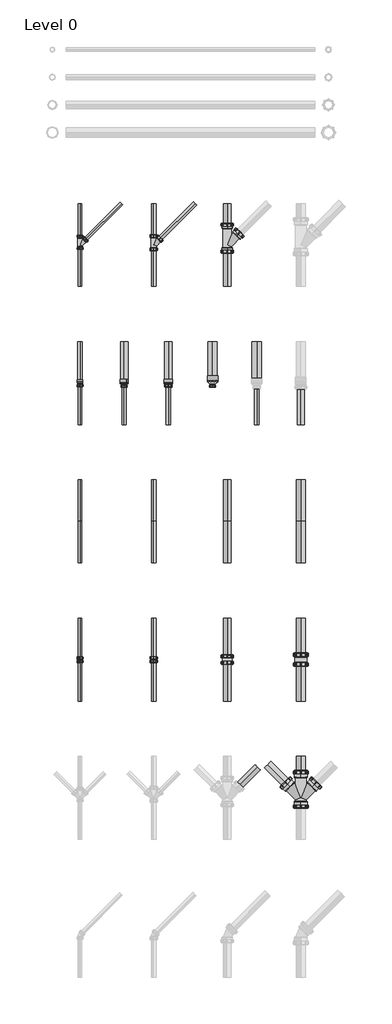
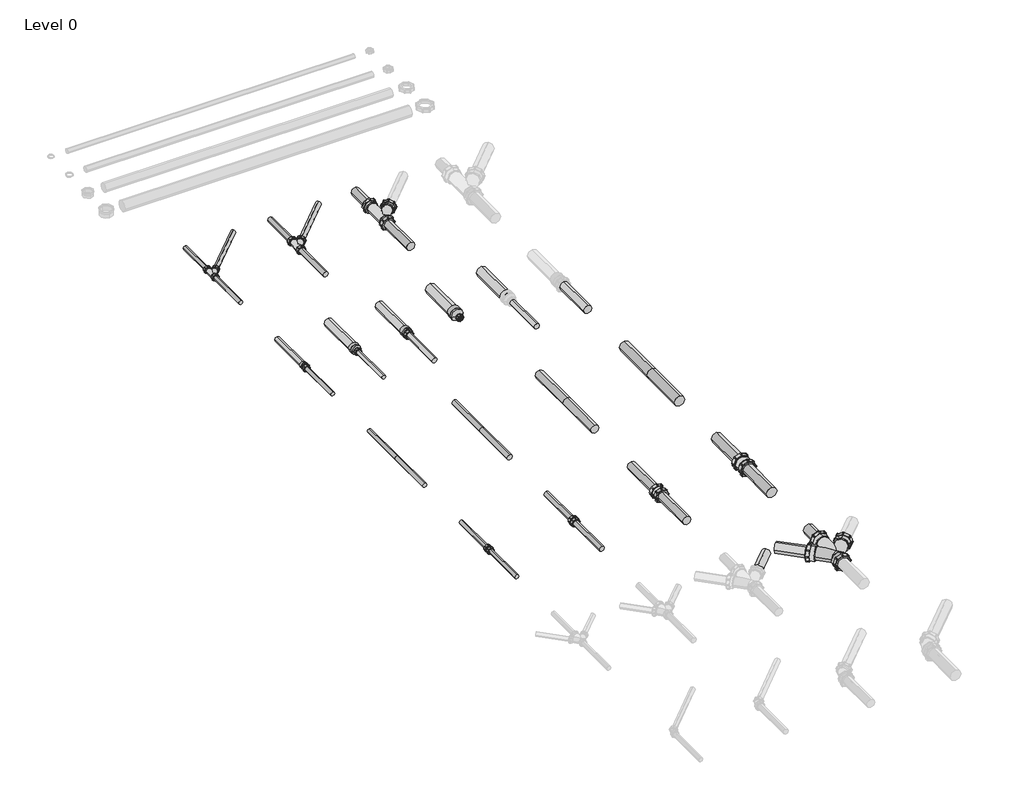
# One storey, part 2 of 5: 49 pipe fittings.
"""IFC4 building model written with IfcOpenShell, lengths in millimetres."""

from ifc_helpers import new_model, si_unit, point, frame, frame_2d, origin, place, context, project, spatial, circle_curve, trimmed, segment, composite_curve, outline, extrude, transform, mapped, element, save
from components import pipe_fitting_35e404ef, pipe_fitting_6c33db91, pipe_fitting_b207b394, pipe_fitting_26df508a, w161_1_5inch_38mm_ecee96b1, w162_2inch_51mm_dc409c0e, w163_3inch_76mm_f9ff3fc3, w164_4inch_102mm_ff1ab78e, w371_1_5inch_38mm_248ea1dd, w371_1_5inch_38mm_3170ab44, w372_2inch_51mm_546ab476, w372_2inch_51mm_12b9c9e0, w373_3inch_76mm_de6eb33f, w373_3inch_76mm_10aee05f, w384_4inch_102mm_da0a81fd, w384_4inch_102mm_0749fb11

model = new_model("IFC4")

# Units and contexts
model_context = context("Model", 3, world=origin())
ifc_project = project(units=[si_unit("LENGTHUNIT", "METRE", prefix="MILLI")], contexts=[model_context])

# Site, building, storey
site = spatial("IfcSite", under=ifc_project)
building = spatial("IfcBuilding", under=site)
storey = spatial("IfcBuildingStorey", under=building, Name="Level 0", Elevation=0.0)

# Pipe fittings
placement = place(None, origin())
element("IfcPipeFitting", 1, ObjectType="Vulcathene Mechanical Pipe", at=placement, inside=storey, context=model_context, shape_type="SweptSolid", body=[
    extrude(outline(composite_curve([segment(trimmed(circle_curve(frame_2d((0.0, -19657.9793828)), 20.0), [point((0.0, -19677.9793828))], [point((-20.0, -19657.9793828))], False, "CARTESIAN"), True, "CONTINUOUS"), segment(trimmed(circle_curve(frame_2d((0.0, -19657.9793828)), 20.0), [point((-20.0, -19657.9793828))], [point((0.0, -19637.9793828))], False, "CARTESIAN"), True, "CONTINUOUS"), segment(trimmed(circle_curve(frame_2d((0.0, -19657.9793828)), 20.0), [point((0.0, -19637.9793828))], [point((20.0, -19657.9793828))], False, "CARTESIAN"), True, "CONTINUOUS"), segment(trimmed(circle_curve(frame_2d((0.0, -19657.9793828)), 20.0), [point((20.0, -19657.9793828))], [point((0.0, -19677.9793828))], False, "CARTESIAN"), True, "CONTINUOUS")], self_intersect=False)), frame((0.0, 11214.6035033, 0.0), z_axis=(0.0, 1.0, 0.0), x_axis=(0.0, 0.0, 1.0)), (0.0, 0.0, 1.0), 421.9),
])
element("IfcPipeFitting", 2, ObjectType="Vulcathene Mechanical Pipe", at=placement, inside=storey, context=model_context, shape_type="SweptSolid", body=[
    extrude(outline(composite_curve([segment(trimmed(circle_curve(frame_2d((0.0, -18857.9793828)), 25.0), [point((0.0, -18882.9793828))], [point((-25.0, -18857.9793828))], False, "CARTESIAN"), True, "CONTINUOUS"), segment(trimmed(circle_curve(frame_2d((0.0, -18857.9793828)), 25.0), [point((-25.0, -18857.9793828))], [point((0.0, -18832.9793828))], False, "CARTESIAN"), True, "CONTINUOUS"), segment(trimmed(circle_curve(frame_2d((0.0, -18857.9793828)), 25.0), [point((0.0, -18832.9793828))], [point((25.0, -18857.9793828))], False, "CARTESIAN"), True, "CONTINUOUS"), segment(trimmed(circle_curve(frame_2d((0.0, -18857.9793828)), 25.0), [point((25.0, -18857.9793828))], [point((0.0, -18882.9793828))], False, "CARTESIAN"), True, "CONTINUOUS")], self_intersect=False)), frame((0.0, 11214.6035033, 0.0), z_axis=(0.0, 1.0, 0.0), x_axis=(0.0, 0.0, 1.0)), (0.0, 0.0, 1.0), 414.4),
])
element("IfcPipeFitting", 3, ObjectType="Vulcathene Mechanical Pipe", at=placement, inside=storey, context=model_context, shape_type="SweptSolid", body=[
    extrude(outline(composite_curve([segment(trimmed(circle_curve(frame_2d((0.0, -18057.9793828)), 40.0), [point((0.0, -18097.9793828))], [point((-40.0, -18057.9793828))], False, "CARTESIAN"), True, "CONTINUOUS"), segment(trimmed(circle_curve(frame_2d((0.0, -18057.9793828)), 40.0), [point((-40.0, -18057.9793828))], [point((0.0, -18017.9793828))], False, "CARTESIAN"), True, "CONTINUOUS"), segment(trimmed(circle_curve(frame_2d((0.0, -18057.9793828)), 40.0), [point((0.0, -18017.9793828))], [point((40.0, -18057.9793828))], False, "CARTESIAN"), True, "CONTINUOUS"), segment(trimmed(circle_curve(frame_2d((0.0, -18057.9793828)), 40.0), [point((40.0, -18057.9793828))], [point((0.0, -18097.9793828))], False, "CARTESIAN"), True, "CONTINUOUS")], self_intersect=False)), frame((0.0, 11214.6035033, 0.0), z_axis=(0.0, 1.0, 0.0), x_axis=(0.0, 0.0, 1.0)), (0.0, 0.0, 1.0), 393.0),
])
element("IfcPipeFitting", 4, ObjectType="Vulcathene Mechanical Pipe", at=placement, inside=storey, context=model_context, shape_type="SweptSolid", body=[
    extrude(outline(composite_curve([segment(trimmed(circle_curve(frame_2d((0.0, 20.0)), 20.0), [point((20.0, 20.0))], [point((0.0, 0.0))], False, "CARTESIAN"), True, "CONTINUOUS"), segment(trimmed(circle_curve(frame_2d((0.0, 20.0)), 20.0), [point((0.0, 0.0))], [point((-20.0, 20.0))], False, "CARTESIAN"), True, "CONTINUOUS"), segment(trimmed(circle_curve(frame_2d((0.0, 20.0)), 20.0), [point((-20.0, 20.0))], [point((0.0, 40.0))], False, "CARTESIAN"), True, "CONTINUOUS"), segment(trimmed(circle_curve(frame_2d((0.0, 20.0)), 20.0), [point((0.0, 40.0))], [point((20.0, 20.0))], False, "CARTESIAN"), True, "CONTINUOUS")], self_intersect=False)), frame((-19603.3200287, 11719.2628574, 20.0), z_axis=(0.7071067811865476, 0.7071067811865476, 0.0), x_axis=(0.7071067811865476, -0.7071067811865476, 0.0)), (0.0, 0.0, 1.0), 559.0961031),
])
element("IfcPipeFitting", 5, ObjectType="Vulcathene Mechanical Pipe", at=placement, inside=storey, context=model_context, shape_type="SweptSolid", body=[
    extrude(outline(composite_curve([segment(trimmed(circle_curve(frame_2d((0.0, -19657.9793828)), 20.0), [point((0.0, -19677.9793828))], [point((-20.0, -19657.9793828))], False, "CARTESIAN"), True, "CONTINUOUS"), segment(trimmed(circle_curve(frame_2d((0.0, -19657.9793828)), 20.0), [point((-20.0, -19657.9793828))], [point((0.0, -19637.9793828))], False, "CARTESIAN"), True, "CONTINUOUS"), segment(trimmed(circle_curve(frame_2d((0.0, -19657.9793828)), 20.0), [point((0.0, -19637.9793828))], [point((20.0, -19657.9793828))], False, "CARTESIAN"), True, "CONTINUOUS"), segment(trimmed(circle_curve(frame_2d((0.0, -19657.9793828)), 20.0), [point((20.0, -19657.9793828))], [point((0.0, -19677.9793828))], False, "CARTESIAN"), True, "CONTINUOUS")], self_intersect=False)), frame((0.0, 11747.7035033, 0.0), z_axis=(0.0, 1.0, 0.0), x_axis=(0.0, 0.0, 1.0)), (0.0, 0.0, 1.0), 366.9),
])
element("IfcPipeFitting", 6, ObjectType="Vulcathene Mechanical Pipe", at=placement, inside=storey, context=model_context, shape_type="SweptSolid", body=[
    extrude(outline(composite_curve([segment(trimmed(circle_curve(frame_2d((0.0, 25.0)), 25.0), [point((25.0, 25.0))], [point((0.0, 0.0))], False, "CARTESIAN"), True, "CONTINUOUS"), segment(trimmed(circle_curve(frame_2d((0.0, 25.0)), 25.0), [point((0.0, 0.0))], [point((-25.0, 25.0))], False, "CARTESIAN"), True, "CONTINUOUS"), segment(trimmed(circle_curve(frame_2d((0.0, 25.0)), 25.0), [point((-25.0, 25.0))], [point((0.0, 50.0))], False, "CARTESIAN"), True, "CONTINUOUS"), segment(trimmed(circle_curve(frame_2d((0.0, 25.0)), 25.0), [point((0.0, 50.0))], [point((25.0, 25.0))], False, "CARTESIAN"), True, "CONTINUOUS")], self_intersect=False)), frame((-18798.4409919, 11724.1418942, 25.0), z_axis=(0.7071067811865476, 0.7071067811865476, 0.0), x_axis=(0.7071067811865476, -0.7071067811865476, 0.0)), (0.0, 0.0, 1.0), 552.1961031),
])
element("IfcPipeFitting", 7, ObjectType="Vulcathene Mechanical Pipe", at=placement, inside=storey, context=model_context, shape_type="SweptSolid", body=[
    extrude(outline(composite_curve([segment(trimmed(circle_curve(frame_2d((0.0, -18857.9793828)), 25.0), [point((0.0, -18882.9793828))], [point((-25.0, -18857.9793828))], False, "CARTESIAN"), True, "CONTINUOUS"), segment(trimmed(circle_curve(frame_2d((0.0, -18857.9793828)), 25.0), [point((-25.0, -18857.9793828))], [point((0.0, -18832.9793828))], False, "CARTESIAN"), True, "CONTINUOUS"), segment(trimmed(circle_curve(frame_2d((0.0, -18857.9793828)), 25.0), [point((0.0, -18832.9793828))], [point((25.0, -18857.9793828))], False, "CARTESIAN"), True, "CONTINUOUS"), segment(trimmed(circle_curve(frame_2d((0.0, -18857.9793828)), 25.0), [point((25.0, -18857.9793828))], [point((0.0, -18882.9793828))], False, "CARTESIAN"), True, "CONTINUOUS")], self_intersect=False)), frame((0.0, 11748.2035033, 0.0), z_axis=(0.0, 1.0, 0.0), x_axis=(0.0, 0.0, 1.0)), (0.0, 0.0, 1.0), 366.4),
])
element("IfcPipeFitting", 8, ObjectType="Vulcathene Mechanical Pipe", at=placement, inside=storey, context=model_context, shape_type="SweptSolid", body=[
    extrude(outline(composite_curve([segment(trimmed(circle_curve(frame_2d((0.0, -18057.9793828)), 40.0), [point((0.0, -18097.9793828))], [point((-40.0, -18057.9793828))], False, "CARTESIAN"), True, "CONTINUOUS"), segment(trimmed(circle_curve(frame_2d((0.0, -18057.9793828)), 40.0), [point((-40.0, -18057.9793828))], [point((0.0, -18017.9793828))], False, "CARTESIAN"), True, "CONTINUOUS"), segment(trimmed(circle_curve(frame_2d((0.0, -18057.9793828)), 40.0), [point((0.0, -18017.9793828))], [point((40.0, -18057.9793828))], False, "CARTESIAN"), True, "CONTINUOUS"), segment(trimmed(circle_curve(frame_2d((0.0, -18057.9793828)), 40.0), [point((40.0, -18057.9793828))], [point((0.0, -18097.9793828))], False, "CARTESIAN"), True, "CONTINUOUS")], self_intersect=False)), frame((0.0, 11869.5035033, 0.0), z_axis=(0.0, 1.0, 0.0), x_axis=(0.0, 0.0, 1.0)), (0.0, 0.0, 1.0), 245.1),
])
element("IfcPipeFitting", 9, ObjectType="Vulcathene Mechanical Pipe", at=placement, inside=storey, context=model_context, shape_type="SweptSolid", body=[
    extrude(outline(composite_curve([segment(trimmed(circle_curve(frame_2d((0.0, -19657.9793828)), 20.0), [point((0.0, -19677.9793828))], [point((-20.0, -19657.9793828))], False, "CARTESIAN"), True, "CONTINUOUS"), segment(trimmed(circle_curve(frame_2d((0.0, -19657.9793828)), 20.0), [point((-20.0, -19657.9793828))], [point((0.0, -19637.9793828))], False, "CARTESIAN"), True, "CONTINUOUS"), segment(trimmed(circle_curve(frame_2d((0.0, -19657.9793828)), 20.0), [point((0.0, -19637.9793828))], [point((20.0, -19657.9793828))], False, "CARTESIAN"), True, "CONTINUOUS"), segment(trimmed(circle_curve(frame_2d((0.0, -19657.9793828)), 20.0), [point((20.0, -19657.9793828))], [point((0.0, -19677.9793828))], False, "CARTESIAN"), True, "CONTINUOUS")], self_intersect=False)), frame((0.0, 9714.6035033, 0.0), z_axis=(0.0, 1.0, 0.0), x_axis=(0.0, 0.0, 1.0)), (0.0, 0.0, 1.0), 442.9),
])
element("IfcPipeFitting", 10, ObjectType="Vulcathene Mechanical Pipe", at=placement, inside=storey, context=model_context, shape_type="SweptSolid", body=[
    extrude(outline(composite_curve([segment(trimmed(circle_curve(frame_2d((0.0, -19657.9793828)), 25.0), [point((0.0, -19632.9793828))], [point((25.0, -19657.9793828))], False, "CARTESIAN"), True, "CONTINUOUS"), segment(trimmed(circle_curve(frame_2d((0.0, -19657.9793828)), 25.0), [point((25.0, -19657.9793828))], [point((0.0, -19682.9793828))], False, "CARTESIAN"), True, "CONTINUOUS"), segment(trimmed(circle_curve(frame_2d((0.0, -19657.9793828)), 25.0), [point((0.0, -19682.9793828))], [point((-25.0, -19657.9793828))], False, "CARTESIAN"), True, "CONTINUOUS"), segment(trimmed(circle_curve(frame_2d((0.0, -19657.9793828)), 25.0), [point((-25.0, -19657.9793828))], [point((0.0, -19632.9793828))], False, "CARTESIAN"), True, "CONTINUOUS")], self_intersect=False)), frame((0.0, 10174.7035033, 0.0), z_axis=(0.0, 1.0, 0.0), x_axis=(0.0, 0.0, 1.0)), (0.0, 0.0, 1.0), 439.9),
])
element("IfcPipeFitting", 11, ObjectType="Vulcathene Mechanical Pipe", at=placement, inside=storey, context=model_context, shape_type="SweptSolid", body=[
    extrude(outline(composite_curve([segment(trimmed(circle_curve(frame_2d((0.0, -19177.9793828)), 20.0), [point((0.0, -19157.9793828))], [point((20.0, -19177.9793828))], False, "CARTESIAN"), True, "CONTINUOUS"), segment(trimmed(circle_curve(frame_2d((0.0, -19177.9793828)), 20.0), [point((20.0, -19177.9793828))], [point((0.0, -19197.9793828))], False, "CARTESIAN"), True, "CONTINUOUS"), segment(trimmed(circle_curve(frame_2d((0.0, -19177.9793828)), 20.0), [point((0.0, -19197.9793828))], [point((-20.0, -19177.9793828))], False, "CARTESIAN"), True, "CONTINUOUS"), segment(trimmed(circle_curve(frame_2d((0.0, -19177.9793828)), 20.0), [point((-20.0, -19177.9793828))], [point((0.0, -19157.9793828))], False, "CARTESIAN"), True, "CONTINUOUS")], self_intersect=False)), frame((0.0, 9714.6035033, 0.0), z_axis=(0.0, 1.0, 0.0), x_axis=(0.0, 0.0, 1.0)), (0.0, 0.0, 1.0), 435.15),
])
element("IfcPipeFitting", 12, ObjectType="Vulcathene Mechanical Pipe", at=placement, inside=storey, context=model_context, shape_type="SweptSolid", body=[
    extrude(outline(composite_curve([segment(trimmed(circle_curve(frame_2d((0.0, -19177.9793828)), 40.0), [point((0.0, -19137.9793828))], [point((40.0, -19177.9793828))], False, "CARTESIAN"), True, "CONTINUOUS"), segment(trimmed(circle_curve(frame_2d((0.0, -19177.9793828)), 40.0), [point((40.0, -19177.9793828))], [point((0.0, -19217.9793828))], False, "CARTESIAN"), True, "CONTINUOUS"), segment(trimmed(circle_curve(frame_2d((0.0, -19177.9793828)), 40.0), [point((0.0, -19217.9793828))], [point((-40.0, -19177.9793828))], False, "CARTESIAN"), True, "CONTINUOUS"), segment(trimmed(circle_curve(frame_2d((0.0, -19177.9793828)), 40.0), [point((-40.0, -19177.9793828))], [point((0.0, -19137.9793828))], False, "CARTESIAN"), True, "CONTINUOUS")], self_intersect=False)), frame((0.0, 10161.4535033, 0.0), z_axis=(0.0, 1.0, 0.0), x_axis=(0.0, 0.0, 1.0)), (0.0, 0.0, 1.0), 453.15),
])
element("IfcPipeFitting", 13, ObjectType="Vulcathene Mechanical Pipe", at=placement, inside=storey, context=model_context, shape_type="SweptSolid", body=[
    extrude(outline(composite_curve([segment(trimmed(circle_curve(frame_2d((0.0, -18697.9793828)), 25.0), [point((0.0, -18672.9793828))], [point((25.0, -18697.9793828))], False, "CARTESIAN"), True, "CONTINUOUS"), segment(trimmed(circle_curve(frame_2d((0.0, -18697.9793828)), 25.0), [point((25.0, -18697.9793828))], [point((0.0, -18722.9793828))], False, "CARTESIAN"), True, "CONTINUOUS"), segment(trimmed(circle_curve(frame_2d((0.0, -18697.9793828)), 25.0), [point((0.0, -18722.9793828))], [point((-25.0, -18697.9793828))], False, "CARTESIAN"), True, "CONTINUOUS"), segment(trimmed(circle_curve(frame_2d((0.0, -18697.9793828)), 25.0), [point((-25.0, -18697.9793828))], [point((0.0, -18672.9793828))], False, "CARTESIAN"), True, "CONTINUOUS")], self_intersect=False)), frame((0.0, 9714.6035033, 0.0), z_axis=(0.0, 1.0, 0.0), x_axis=(0.0, 0.0, 1.0)), (0.0, 0.0, 1.0), 438.25),
])
element("IfcPipeFitting", 14, ObjectType="Vulcathene Mechanical Pipe", at=placement, inside=storey, context=model_context, shape_type="SweptSolid", body=[
    extrude(outline(composite_curve([segment(trimmed(circle_curve(frame_2d((0.0, -18697.9793828)), 40.0), [point((0.0, -18657.9793828))], [point((40.0, -18697.9793828))], False, "CARTESIAN"), True, "CONTINUOUS"), segment(trimmed(circle_curve(frame_2d((0.0, -18697.9793828)), 40.0), [point((40.0, -18697.9793828))], [point((0.0, -18737.9793828))], False, "CARTESIAN"), True, "CONTINUOUS"), segment(trimmed(circle_curve(frame_2d((0.0, -18697.9793828)), 40.0), [point((0.0, -18737.9793828))], [point((-40.0, -18697.9793828))], False, "CARTESIAN"), True, "CONTINUOUS"), segment(trimmed(circle_curve(frame_2d((0.0, -18697.9793828)), 40.0), [point((-40.0, -18697.9793828))], [point((0.0, -18657.9793828))], False, "CARTESIAN"), True, "CONTINUOUS")], self_intersect=False)), frame((0.0, 10160.3535033, 0.0), z_axis=(0.0, 1.0, 0.0), x_axis=(0.0, 0.0, 1.0)), (0.0, 0.0, 1.0), 454.25),
])
element("IfcPipeFitting", 15, ObjectType="Vulcathene Mechanical Pipe", at=placement, inside=storey, context=model_context, shape_type="SweptSolid", body=[
    extrude(outline(composite_curve([segment(trimmed(circle_curve(frame_2d((0.0, -17737.9793828)), 25.0), [point((0.0, -17712.9793828))], [point((25.0, -17737.9793828))], False, "CARTESIAN"), True, "CONTINUOUS"), segment(trimmed(circle_curve(frame_2d((0.0, -17737.9793828)), 25.0), [point((25.0, -17737.9793828))], [point((0.0, -17762.9793828))], False, "CARTESIAN"), True, "CONTINUOUS"), segment(trimmed(circle_curve(frame_2d((0.0, -17737.9793828)), 25.0), [point((0.0, -17762.9793828))], [point((-25.0, -17737.9793828))], False, "CARTESIAN"), True, "CONTINUOUS"), segment(trimmed(circle_curve(frame_2d((0.0, -17737.9793828)), 25.0), [point((-25.0, -17737.9793828))], [point((0.0, -17712.9793828))], False, "CARTESIAN"), True, "CONTINUOUS")], self_intersect=False)), frame((0.0, 9714.6035033, 0.0), z_axis=(0.0, 1.0, 0.0), x_axis=(0.0, 0.0, 1.0)), (0.0, 0.0, 1.0), 419.25),
])
element("IfcPipeFitting", 16, ObjectType="Vulcathene Mechanical Pipe", at=placement, inside=storey, context=model_context, shape_type="SweptSolid", body=[
    extrude(outline(composite_curve([segment(trimmed(circle_curve(frame_2d((0.0, -17737.9793828)), 50.0), [point((0.0, -17687.9793828))], [point((50.0, -17737.9793828))], False, "CARTESIAN"), True, "CONTINUOUS"), segment(trimmed(circle_curve(frame_2d((0.0, -17737.9793828)), 50.0), [point((50.0, -17737.9793828))], [point((0.0, -17787.9793828))], False, "CARTESIAN"), True, "CONTINUOUS"), segment(trimmed(circle_curve(frame_2d((0.0, -17737.9793828)), 50.0), [point((0.0, -17787.9793828))], [point((-50.0, -17737.9793828))], False, "CARTESIAN"), True, "CONTINUOUS"), segment(trimmed(circle_curve(frame_2d((0.0, -17737.9793828)), 50.0), [point((-50.0, -17737.9793828))], [point((0.0, -17687.9793828))], False, "CARTESIAN"), True, "CONTINUOUS")], self_intersect=False)), frame((0.0, 10163.3535033, 0.0), z_axis=(0.0, 1.0, 0.0), x_axis=(0.0, 0.0, 1.0)), (0.0, 0.0, 1.0), 451.25),
])
element("IfcPipeFitting", 17, ObjectType="Vulcathene Mechanical Pipe", at=placement, inside=storey, context=model_context, shape_type="SweptSolid", body=[
    extrude(outline(composite_curve([segment(trimmed(circle_curve(frame_2d((0.0, -17257.9793828)), 40.0), [point((0.0, -17217.9793828))], [point((40.0, -17257.9793828))], False, "CARTESIAN"), True, "CONTINUOUS"), segment(trimmed(circle_curve(frame_2d((0.0, -17257.9793828)), 40.0), [point((40.0, -17257.9793828))], [point((0.0, -17297.9793828))], False, "CARTESIAN"), True, "CONTINUOUS"), segment(trimmed(circle_curve(frame_2d((0.0, -17257.9793828)), 40.0), [point((0.0, -17297.9793828))], [point((-40.0, -17257.9793828))], False, "CARTESIAN"), True, "CONTINUOUS"), segment(trimmed(circle_curve(frame_2d((0.0, -17257.9793828)), 40.0), [point((-40.0, -17257.9793828))], [point((0.0, -17217.9793828))], False, "CARTESIAN"), True, "CONTINUOUS")], self_intersect=False)), frame((0.0, 9714.6035033, 0.0), z_axis=(0.0, 1.0, 0.0), x_axis=(0.0, 0.0, 1.0)), (0.0, 0.0, 1.0), 437.15),
])
element("IfcPipeFitting", 18, ObjectType="Vulcathene Mechanical Pipe", at=placement, inside=storey, context=model_context, shape_type="SweptSolid", body=[
    extrude(outline(composite_curve([segment(trimmed(circle_curve(frame_2d((0.0, -18217.9793828)), 50.0), [point((0.0, -18167.9793828))], [point((50.0, -18217.9793828))], False, "CARTESIAN"), True, "CONTINUOUS"), segment(trimmed(circle_curve(frame_2d((0.0, -18217.9793828)), 50.0), [point((50.0, -18217.9793828))], [point((0.0, -18267.9793828))], False, "CARTESIAN"), True, "CONTINUOUS"), segment(trimmed(circle_curve(frame_2d((0.0, -18217.9793828)), 50.0), [point((0.0, -18267.9793828))], [point((-50.0, -18217.9793828))], False, "CARTESIAN"), True, "CONTINUOUS"), segment(trimmed(circle_curve(frame_2d((0.0, -18217.9793828)), 50.0), [point((-50.0, -18217.9793828))], [point((0.0, -18167.9793828))], False, "CARTESIAN"), True, "CONTINUOUS")], self_intersect=False)), frame((0.0, 10181.8535033, 0.0), z_axis=(0.0, 1.0, 0.0), x_axis=(0.0, 0.0, 1.0)), (0.0, 0.0, 1.0), 432.75),
])
element("IfcPipeFitting", 19, ObjectType="Vulcathene Mechanical Pipe", at=placement, inside=storey, context=model_context, shape_type="SweptSolid", body=[
    extrude(outline(composite_curve([segment(trimmed(circle_curve(frame_2d((0.0, -19657.9793828)), 20.0), [point((0.0, -19677.9793828))], [point((-20.0, -19657.9793828))], False, "CARTESIAN"), True, "CONTINUOUS"), segment(trimmed(circle_curve(frame_2d((0.0, -19657.9793828)), 20.0), [point((-20.0, -19657.9793828))], [point((0.0, -19637.9793828))], False, "CARTESIAN"), True, "CONTINUOUS"), segment(trimmed(circle_curve(frame_2d((0.0, -19657.9793828)), 20.0), [point((0.0, -19637.9793828))], [point((20.0, -19657.9793828))], False, "CARTESIAN"), True, "CONTINUOUS"), segment(trimmed(circle_curve(frame_2d((0.0, -19657.9793828)), 20.0), [point((20.0, -19657.9793828))], [point((0.0, -19677.9793828))], False, "CARTESIAN"), True, "CONTINUOUS")], self_intersect=False)), frame((0.0, 8214.6035033, 0.0), z_axis=(0.0, 1.0, 0.0), x_axis=(0.0, 0.0, 1.0)), (0.0, 0.0, 1.0), 450.0),
])
element("IfcPipeFitting", 20, ObjectType="Vulcathene Mechanical Pipe", at=placement, inside=storey, context=model_context, shape_type="SweptSolid", body=[
    extrude(outline(composite_curve([segment(trimmed(circle_curve(frame_2d((0.0, -18857.9793828)), 25.0), [point((0.0, -18882.9793828))], [point((-25.0, -18857.9793828))], False, "CARTESIAN"), True, "CONTINUOUS"), segment(trimmed(circle_curve(frame_2d((0.0, -18857.9793828)), 25.0), [point((-25.0, -18857.9793828))], [point((0.0, -18832.9793828))], False, "CARTESIAN"), True, "CONTINUOUS"), segment(trimmed(circle_curve(frame_2d((0.0, -18857.9793828)), 25.0), [point((0.0, -18832.9793828))], [point((25.0, -18857.9793828))], False, "CARTESIAN"), True, "CONTINUOUS"), segment(trimmed(circle_curve(frame_2d((0.0, -18857.9793828)), 25.0), [point((25.0, -18857.9793828))], [point((0.0, -18882.9793828))], False, "CARTESIAN"), True, "CONTINUOUS")], self_intersect=False)), frame((0.0, 8214.6035033, 0.0), z_axis=(0.0, 1.0, 0.0), x_axis=(0.0, 0.0, 1.0)), (0.0, 0.0, 1.0), 450.0),
])
element("IfcPipeFitting", 21, ObjectType="Vulcathene Mechanical Pipe", at=placement, inside=storey, context=model_context, shape_type="SweptSolid", body=[
    extrude(outline(composite_curve([segment(trimmed(circle_curve(frame_2d((0.0, -18057.9793828)), 40.0), [point((0.0, -18097.9793828))], [point((-40.0, -18057.9793828))], False, "CARTESIAN"), True, "CONTINUOUS"), segment(trimmed(circle_curve(frame_2d((0.0, -18057.9793828)), 40.0), [point((-40.0, -18057.9793828))], [point((0.0, -18017.9793828))], False, "CARTESIAN"), True, "CONTINUOUS"), segment(trimmed(circle_curve(frame_2d((0.0, -18057.9793828)), 40.0), [point((0.0, -18017.9793828))], [point((40.0, -18057.9793828))], False, "CARTESIAN"), True, "CONTINUOUS"), segment(trimmed(circle_curve(frame_2d((0.0, -18057.9793828)), 40.0), [point((40.0, -18057.9793828))], [point((0.0, -18097.9793828))], False, "CARTESIAN"), True, "CONTINUOUS")], self_intersect=False)), frame((0.0, 8214.6035033, 0.0), z_axis=(0.0, 1.0, 0.0), x_axis=(0.0, 0.0, 1.0)), (0.0, 0.0, 1.0), 450.0),
])
element("IfcPipeFitting", 22, ObjectType="Vulcathene Mechanical Pipe", at=placement, inside=storey, context=model_context, shape_type="SweptSolid", body=[
    extrude(outline(composite_curve([segment(trimmed(circle_curve(frame_2d((0.0, -17257.9793828)), 50.0), [point((0.0, -17307.9793828))], [point((-50.0, -17257.9793828))], False, "CARTESIAN"), True, "CONTINUOUS"), segment(trimmed(circle_curve(frame_2d((0.0, -17257.9793828)), 50.0), [point((-50.0, -17257.9793828))], [point((0.0, -17207.9793828))], False, "CARTESIAN"), True, "CONTINUOUS"), segment(trimmed(circle_curve(frame_2d((0.0, -17257.9793828)), 50.0), [point((0.0, -17207.9793828))], [point((50.0, -17257.9793828))], False, "CARTESIAN"), True, "CONTINUOUS"), segment(trimmed(circle_curve(frame_2d((0.0, -17257.9793828)), 50.0), [point((50.0, -17257.9793828))], [point((0.0, -17307.9793828))], False, "CARTESIAN"), True, "CONTINUOUS")], self_intersect=False)), frame((0.0, 8214.6035033, 0.0), z_axis=(0.0, 1.0, 0.0), x_axis=(0.0, 0.0, 1.0)), (0.0, 0.0, 1.0), 450.0),
])
element("IfcPipeFitting", 23, ObjectType="Vulcathene Mechanical Pipe", at=placement, inside=storey, context=model_context, shape_type="SweptSolid", body=[
    extrude(outline(composite_curve([segment(trimmed(circle_curve(frame_2d((0.0, -19657.9793828)), 20.0), [point((0.0, -19677.9793828))], [point((-20.0, -19657.9793828))], False, "CARTESIAN"), True, "CONTINUOUS"), segment(trimmed(circle_curve(frame_2d((0.0, -19657.9793828)), 20.0), [point((-20.0, -19657.9793828))], [point((0.0, -19637.9793828))], False, "CARTESIAN"), True, "CONTINUOUS"), segment(trimmed(circle_curve(frame_2d((0.0, -19657.9793828)), 20.0), [point((0.0, -19637.9793828))], [point((20.0, -19657.9793828))], False, "CARTESIAN"), True, "CONTINUOUS"), segment(trimmed(circle_curve(frame_2d((0.0, -19657.9793828)), 20.0), [point((20.0, -19657.9793828))], [point((0.0, -19677.9793828))], False, "CARTESIAN"), True, "CONTINUOUS")], self_intersect=False)), frame((0.0, 8664.6035033, 0.0), z_axis=(0.0, 1.0, 0.0), x_axis=(0.0, 0.0, 1.0)), (0.0, 0.0, 1.0), 450.0),
])
element("IfcPipeFitting", 24, ObjectType="Vulcathene Mechanical Pipe", at=placement, inside=storey, context=model_context, shape_type="SweptSolid", body=[
    extrude(outline(composite_curve([segment(trimmed(circle_curve(frame_2d((0.0, -18857.9793828)), 25.0), [point((0.0, -18882.9793828))], [point((-25.0, -18857.9793828))], False, "CARTESIAN"), True, "CONTINUOUS"), segment(trimmed(circle_curve(frame_2d((0.0, -18857.9793828)), 25.0), [point((-25.0, -18857.9793828))], [point((0.0, -18832.9793828))], False, "CARTESIAN"), True, "CONTINUOUS"), segment(trimmed(circle_curve(frame_2d((0.0, -18857.9793828)), 25.0), [point((0.0, -18832.9793828))], [point((25.0, -18857.9793828))], False, "CARTESIAN"), True, "CONTINUOUS"), segment(trimmed(circle_curve(frame_2d((0.0, -18857.9793828)), 25.0), [point((25.0, -18857.9793828))], [point((0.0, -18882.9793828))], False, "CARTESIAN"), True, "CONTINUOUS")], self_intersect=False)), frame((0.0, 8664.6035033, 0.0), z_axis=(0.0, 1.0, 0.0), x_axis=(0.0, 0.0, 1.0)), (0.0, 0.0, 1.0), 450.0),
])
element("IfcPipeFitting", 25, ObjectType="Vulcathene Mechanical Pipe", at=placement, inside=storey, context=model_context, shape_type="SweptSolid", body=[
    extrude(outline(composite_curve([segment(trimmed(circle_curve(frame_2d((0.0, -18057.9793828)), 40.0), [point((0.0, -18097.9793828))], [point((-40.0, -18057.9793828))], False, "CARTESIAN"), True, "CONTINUOUS"), segment(trimmed(circle_curve(frame_2d((0.0, -18057.9793828)), 40.0), [point((-40.0, -18057.9793828))], [point((0.0, -18017.9793828))], False, "CARTESIAN"), True, "CONTINUOUS"), segment(trimmed(circle_curve(frame_2d((0.0, -18057.9793828)), 40.0), [point((0.0, -18017.9793828))], [point((40.0, -18057.9793828))], False, "CARTESIAN"), True, "CONTINUOUS"), segment(trimmed(circle_curve(frame_2d((0.0, -18057.9793828)), 40.0), [point((40.0, -18057.9793828))], [point((0.0, -18097.9793828))], False, "CARTESIAN"), True, "CONTINUOUS")], self_intersect=False)), frame((0.0, 8664.6035033, 0.0), z_axis=(0.0, 1.0, 0.0), x_axis=(0.0, 0.0, 1.0)), (0.0, 0.0, 1.0), 450.0),
])
element("IfcPipeFitting", 26, ObjectType="Vulcathene Mechanical Pipe", at=placement, inside=storey, context=model_context, shape_type="SweptSolid", body=[
    extrude(outline(composite_curve([segment(trimmed(circle_curve(frame_2d((0.0, -17257.9793828)), 50.0), [point((0.0, -17307.9793828))], [point((-50.0, -17257.9793828))], False, "CARTESIAN"), True, "CONTINUOUS"), segment(trimmed(circle_curve(frame_2d((0.0, -17257.9793828)), 50.0), [point((-50.0, -17257.9793828))], [point((0.0, -17207.9793828))], False, "CARTESIAN"), True, "CONTINUOUS"), segment(trimmed(circle_curve(frame_2d((0.0, -17257.9793828)), 50.0), [point((0.0, -17207.9793828))], [point((50.0, -17257.9793828))], False, "CARTESIAN"), True, "CONTINUOUS"), segment(trimmed(circle_curve(frame_2d((0.0, -17257.9793828)), 50.0), [point((50.0, -17257.9793828))], [point((0.0, -17307.9793828))], False, "CARTESIAN"), True, "CONTINUOUS")], self_intersect=False)), frame((0.0, 8664.6035033, 0.0), z_axis=(0.0, 1.0, 0.0), x_axis=(0.0, 0.0, 1.0)), (0.0, 0.0, 1.0), 450.0),
])
element("IfcPipeFitting", 27, ObjectType="Vulcathene Mechanical Pipe", at=placement, inside=storey, context=model_context, shape_type="SweptSolid", body=[
    extrude(outline(composite_curve([segment(trimmed(circle_curve(frame_2d((0.0, -19657.9793828)), 20.0), [point((0.0, -19677.9793828))], [point((-20.0, -19657.9793828))], False, "CARTESIAN"), True, "CONTINUOUS"), segment(trimmed(circle_curve(frame_2d((0.0, -19657.9793828)), 20.0), [point((-20.0, -19657.9793828))], [point((0.0, -19637.9793828))], False, "CARTESIAN"), True, "CONTINUOUS"), segment(trimmed(circle_curve(frame_2d((0.0, -19657.9793828)), 20.0), [point((0.0, -19637.9793828))], [point((20.0, -19657.9793828))], False, "CARTESIAN"), True, "CONTINUOUS"), segment(trimmed(circle_curve(frame_2d((0.0, -19657.9793828)), 20.0), [point((20.0, -19657.9793828))], [point((0.0, -19677.9793828))], False, "CARTESIAN"), True, "CONTINUOUS")], self_intersect=False)), frame((0.0, 6714.6035033, 0.0), z_axis=(0.0, 1.0, 0.0), x_axis=(0.0, 0.0, 1.0)), (0.0, 0.0, 1.0), 439.1),
])
element("IfcPipeFitting", 28, ObjectType="Vulcathene Mechanical Pipe", at=placement, inside=storey, context=model_context, shape_type="SweptSolid", body=[
    extrude(outline(composite_curve([segment(trimmed(circle_curve(frame_2d((0.0, -18857.9793828)), 25.0), [point((0.0, -18882.9793828))], [point((-25.0, -18857.9793828))], False, "CARTESIAN"), True, "CONTINUOUS"), segment(trimmed(circle_curve(frame_2d((0.0, -18857.9793828)), 25.0), [point((-25.0, -18857.9793828))], [point((0.0, -18832.9793828))], False, "CARTESIAN"), True, "CONTINUOUS"), segment(trimmed(circle_curve(frame_2d((0.0, -18857.9793828)), 25.0), [point((0.0, -18832.9793828))], [point((25.0, -18857.9793828))], False, "CARTESIAN"), True, "CONTINUOUS"), segment(trimmed(circle_curve(frame_2d((0.0, -18857.9793828)), 25.0), [point((25.0, -18857.9793828))], [point((0.0, -18882.9793828))], False, "CARTESIAN"), True, "CONTINUOUS")], self_intersect=False)), frame((0.0, 6714.6035033, 0.0), z_axis=(0.0, 1.0, 0.0), x_axis=(0.0, 0.0, 1.0)), (0.0, 0.0, 1.0), 443.5),
])
element("IfcPipeFitting", 29, ObjectType="Vulcathene Mechanical Pipe", at=placement, inside=storey, context=model_context, shape_type="SweptSolid", body=[
    extrude(outline(composite_curve([segment(trimmed(circle_curve(frame_2d((0.0, -18057.9793828)), 40.0), [point((0.0, -18097.9793828))], [point((-40.0, -18057.9793828))], False, "CARTESIAN"), True, "CONTINUOUS"), segment(trimmed(circle_curve(frame_2d((0.0, -18057.9793828)), 40.0), [point((-40.0, -18057.9793828))], [point((0.0, -18017.9793828))], False, "CARTESIAN"), True, "CONTINUOUS"), segment(trimmed(circle_curve(frame_2d((0.0, -18057.9793828)), 40.0), [point((0.0, -18017.9793828))], [point((40.0, -18057.9793828))], False, "CARTESIAN"), True, "CONTINUOUS"), segment(trimmed(circle_curve(frame_2d((0.0, -18057.9793828)), 40.0), [point((40.0, -18057.9793828))], [point((0.0, -18097.9793828))], False, "CARTESIAN"), True, "CONTINUOUS")], self_intersect=False)), frame((0.0, 6714.6035033, 0.0), z_axis=(0.0, 1.0, 0.0), x_axis=(0.0, 0.0, 1.0)), (0.0, 0.0, 1.0), 429.6),
])
element("IfcPipeFitting", 30, ObjectType="Vulcathene Mechanical Pipe", at=placement, inside=storey, context=model_context, shape_type="SweptSolid", body=[
    extrude(outline(composite_curve([segment(trimmed(circle_curve(frame_2d((0.0, -17257.9793828)), 50.0), [point((0.0, -17307.9793828))], [point((-50.0, -17257.9793828))], False, "CARTESIAN"), True, "CONTINUOUS"), segment(trimmed(circle_curve(frame_2d((0.0, -17257.9793828)), 50.0), [point((-50.0, -17257.9793828))], [point((0.0, -17207.9793828))], False, "CARTESIAN"), True, "CONTINUOUS"), segment(trimmed(circle_curve(frame_2d((0.0, -17257.9793828)), 50.0), [point((0.0, -17207.9793828))], [point((50.0, -17257.9793828))], False, "CARTESIAN"), True, "CONTINUOUS"), segment(trimmed(circle_curve(frame_2d((0.0, -17257.9793828)), 50.0), [point((50.0, -17257.9793828))], [point((0.0, -17307.9793828))], False, "CARTESIAN"), True, "CONTINUOUS")], self_intersect=False)), frame((0.0, 6714.6035033, 0.0), z_axis=(0.0, 1.0, 0.0), x_axis=(0.0, 0.0, 1.0)), (0.0, 0.0, 1.0), 414.0),
])
element("IfcPipeFitting", 31, ObjectType="Vulcathene Mechanical Pipe", at=placement, inside=storey, context=model_context, shape_type="SweptSolid", body=[
    extrude(outline(composite_curve([segment(trimmed(circle_curve(frame_2d((0.0, -19657.9793828)), 20.0), [point((0.0, -19677.9793828))], [point((-20.0, -19657.9793828))], False, "CARTESIAN"), True, "CONTINUOUS"), segment(trimmed(circle_curve(frame_2d((0.0, -19657.9793828)), 20.0), [point((-20.0, -19657.9793828))], [point((0.0, -19637.9793828))], False, "CARTESIAN"), True, "CONTINUOUS"), segment(trimmed(circle_curve(frame_2d((0.0, -19657.9793828)), 20.0), [point((0.0, -19637.9793828))], [point((20.0, -19657.9793828))], False, "CARTESIAN"), True, "CONTINUOUS"), segment(trimmed(circle_curve(frame_2d((0.0, -19657.9793828)), 20.0), [point((20.0, -19657.9793828))], [point((0.0, -19677.9793828))], False, "CARTESIAN"), True, "CONTINUOUS")], self_intersect=False)), frame((0.0, 7175.5035033, 0.0), z_axis=(0.0, 1.0, 0.0), x_axis=(0.0, 0.0, 1.0)), (0.0, 0.0, 1.0), 439.1),
])
element("IfcPipeFitting", 32, ObjectType="Vulcathene Mechanical Pipe", at=placement, inside=storey, context=model_context, shape_type="SweptSolid", body=[
    extrude(outline(composite_curve([segment(trimmed(circle_curve(frame_2d((0.0, -18857.9793828)), 25.0), [point((0.0, -18882.9793828))], [point((-25.0, -18857.9793828))], False, "CARTESIAN"), True, "CONTINUOUS"), segment(trimmed(circle_curve(frame_2d((0.0, -18857.9793828)), 25.0), [point((-25.0, -18857.9793828))], [point((0.0, -18832.9793828))], False, "CARTESIAN"), True, "CONTINUOUS"), segment(trimmed(circle_curve(frame_2d((0.0, -18857.9793828)), 25.0), [point((0.0, -18832.9793828))], [point((25.0, -18857.9793828))], False, "CARTESIAN"), True, "CONTINUOUS"), segment(trimmed(circle_curve(frame_2d((0.0, -18857.9793828)), 25.0), [point((25.0, -18857.9793828))], [point((0.0, -18882.9793828))], False, "CARTESIAN"), True, "CONTINUOUS")], self_intersect=False)), frame((0.0, 7171.1035033, 0.0), z_axis=(0.0, 1.0, 0.0), x_axis=(0.0, 0.0, 1.0)), (0.0, 0.0, 1.0), 443.5),
])
element("IfcPipeFitting", 33, ObjectType="Vulcathene Mechanical Pipe", at=placement, inside=storey, context=model_context, shape_type="SweptSolid", body=[
    extrude(outline(composite_curve([segment(trimmed(circle_curve(frame_2d((0.0, -18057.9793828)), 40.0), [point((0.0, -18097.9793828))], [point((-40.0, -18057.9793828))], False, "CARTESIAN"), True, "CONTINUOUS"), segment(trimmed(circle_curve(frame_2d((0.0, -18057.9793828)), 40.0), [point((-40.0, -18057.9793828))], [point((0.0, -18017.9793828))], False, "CARTESIAN"), True, "CONTINUOUS"), segment(trimmed(circle_curve(frame_2d((0.0, -18057.9793828)), 40.0), [point((0.0, -18017.9793828))], [point((40.0, -18057.9793828))], False, "CARTESIAN"), True, "CONTINUOUS"), segment(trimmed(circle_curve(frame_2d((0.0, -18057.9793828)), 40.0), [point((40.0, -18057.9793828))], [point((0.0, -18097.9793828))], False, "CARTESIAN"), True, "CONTINUOUS")], self_intersect=False)), frame((0.0, 7185.0035033, 0.0), z_axis=(0.0, 1.0, 0.0), x_axis=(0.0, 0.0, 1.0)), (0.0, 0.0, 1.0), 429.6),
])
element("IfcPipeFitting", 34, ObjectType="Vulcathene Mechanical Pipe", at=placement, inside=storey, context=model_context, shape_type="SweptSolid", body=[
    extrude(outline(composite_curve([segment(trimmed(circle_curve(frame_2d((0.0, -17257.9793828)), 50.0), [point((0.0, -17307.9793828))], [point((-50.0, -17257.9793828))], False, "CARTESIAN"), True, "CONTINUOUS"), segment(trimmed(circle_curve(frame_2d((0.0, -17257.9793828)), 50.0), [point((-50.0, -17257.9793828))], [point((0.0, -17207.9793828))], False, "CARTESIAN"), True, "CONTINUOUS"), segment(trimmed(circle_curve(frame_2d((0.0, -17257.9793828)), 50.0), [point((0.0, -17207.9793828))], [point((50.0, -17257.9793828))], False, "CARTESIAN"), True, "CONTINUOUS"), segment(trimmed(circle_curve(frame_2d((0.0, -17257.9793828)), 50.0), [point((50.0, -17257.9793828))], [point((0.0, -17307.9793828))], False, "CARTESIAN"), True, "CONTINUOUS")], self_intersect=False)), frame((0.0, 7200.6035033, 0.0), z_axis=(0.0, 1.0, 0.0), x_axis=(0.0, 0.0, 1.0)), (0.0, 0.0, 1.0), 414.0),
])
element("IfcPipeFitting", 35, ObjectType="Vulcathene Mechanical Pipe", at=placement, inside=storey, context=model_context, shape_type="SweptSolid", body=[
    extrude(outline(composite_curve([segment(trimmed(circle_curve(frame_2d((0.0, -17257.9793828)), 50.0), [point((0.0, -17307.9793828))], [point((-50.0, -17257.9793828))], False, "CARTESIAN"), True, "CONTINUOUS"), segment(trimmed(circle_curve(frame_2d((0.0, -17257.9793828)), 50.0), [point((-50.0, -17257.9793828))], [point((0.0, -17207.9793828))], False, "CARTESIAN"), True, "CONTINUOUS"), segment(trimmed(circle_curve(frame_2d((0.0, -17257.9793828)), 50.0), [point((0.0, -17207.9793828))], [point((50.0, -17257.9793828))], False, "CARTESIAN"), True, "CONTINUOUS"), segment(trimmed(circle_curve(frame_2d((0.0, -17257.9793828)), 50.0), [point((50.0, -17257.9793828))], [point((0.0, -17307.9793828))], False, "CARTESIAN"), True, "CONTINUOUS")], self_intersect=False)), frame((0.0, 5924.8035033, 0.0), z_axis=(0.0, 1.0, 0.0), x_axis=(0.0, 0.0, 1.0)), (0.0, 0.0, 1.0), 189.8),
])
element("IfcPipeFitting", 36, ObjectType="Vulcathene Mechanical Pipe", at=placement, inside=storey, context=model_context, shape_type="SweptSolid", body=[
    extrude(outline(composite_curve([segment(trimmed(circle_curve(frame_2d((0.0, 40.0)), 40.0), [point((40.0, 40.0))], [point((0.0, 0.0))], False, "CARTESIAN"), True, "CONTINUOUS"), segment(trimmed(circle_curve(frame_2d((0.0, 40.0)), 40.0), [point((0.0, 0.0))], [point((-40.0, 40.0))], False, "CARTESIAN"), True, "CONTINUOUS"), segment(trimmed(circle_curve(frame_2d((0.0, 40.0)), 40.0), [point((-40.0, 40.0))], [point((0.0, 80.0))], False, "CARTESIAN"), True, "CONTINUOUS"), segment(trimmed(circle_curve(frame_2d((0.0, 40.0)), 40.0), [point((0.0, 80.0))], [point((40.0, 40.0))], False, "CARTESIAN"), True, "CONTINUOUS")], self_intersect=False)), frame((-17939.538997, 5783.0438891, 40.0), z_axis=(0.7071067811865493, 0.7071067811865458, 0.0), x_axis=(0.7071067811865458, -0.7071067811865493, 0.0)), (0.0, 0.0, 1.0), 300.0),
])
element("IfcPipeFitting", 37, ObjectType="Vulcathene Mechanical Pipe", at=placement, inside=storey, context=model_context, shape_type="SweptSolid", body=[
    extrude(outline(composite_curve([segment(trimmed(circle_curve(frame_2d((0.0, 50.0)), 50.0), [point((50.0, 50.0))], [point((0.0, 0.0))], False, "CARTESIAN"), True, "CONTINUOUS"), segment(trimmed(circle_curve(frame_2d((0.0, 50.0)), 50.0), [point((0.0, 0.0))], [point((-50.0, 50.0))], False, "CARTESIAN"), True, "CONTINUOUS"), segment(trimmed(circle_curve(frame_2d((0.0, 50.0)), 50.0), [point((-50.0, 50.0))], [point((0.0, 100.0))], False, "CARTESIAN"), True, "CONTINUOUS"), segment(trimmed(circle_curve(frame_2d((0.0, 50.0)), 50.0), [point((0.0, 100.0))], [point((50.0, 50.0))], False, "CARTESIAN"), True, "CONTINUOUS")], self_intersect=False)), frame((-17406.0475428, 5812.6716632, 50.0), z_axis=(-0.7071067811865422, 0.7071067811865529, 0.0), x_axis=(0.7071067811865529, 0.7071067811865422, 0.0)), (0.0, 0.0, 1.0), 300.0),
])
pipe_fitting_shape = pipe_fitting_35e404ef(model_context)
element("IfcPipeFitting", 38, ObjectType="Durapipe_PipeFitting_VulcatheneMechanical_ReducingCoupler_W39 : W3921_2Inxh x 1.5Inch_51mm x 38mm", at=placement, inside=storey, context=model_context, shape_type="MappedRepresentation", body=[
    mapped(pipe_fitting_shape, transform((-18217.9793828, 10182.8535033, 0.0), x_axis=(0.0, -1.0000000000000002, 0.0), y_axis=(1.0000000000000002, 0.0, 0.0), z_axis=(0.0, 0.0, 1.0))),
])
pipe_fitting_2_shape = pipe_fitting_6c33db91(model_context)
element("IfcPipeFitting", 39, ObjectType="Durapipe_PipeFitting_VulcatheneMechanical_ReducingCoupler_W39 : W3931_3Inxh x 1.5Inch_76mm x 38mm", at=placement, inside=storey, context=model_context, shape_type="MappedRepresentation", body=[
    mapped(pipe_fitting_2_shape, transform((-19657.9793828, 10164.6035033, 0.0), x_axis=(0.0, -1.0, 0.0), y_axis=(1.0, 0.0, 0.0), z_axis=(0.0, 0.0, 1.0))),
])
pipe_fitting_3_shape = pipe_fitting_b207b394(model_context)
element("IfcPipeFitting", 40, ObjectType="Durapipe_PipeFitting_VulcatheneMechanical_ReducingCoupler_W39 : W3932_3Inxh x 2Inch_76mm x 51mm", at=placement, inside=storey, context=model_context, shape_type="MappedRepresentation", body=[
    mapped(pipe_fitting_3_shape, transform((-19177.9793828, 10164.6035033, 0.0), x_axis=(0.0, -1.0, 0.0), y_axis=(1.0, 0.0, 0.0), z_axis=(0.0, 0.0, 1.0))),
])
pipe_fitting_4_shape = pipe_fitting_26df508a(model_context)
element("IfcPipeFitting", 41, ObjectType="Durapipe_PipeFitting_VulcatheneMechanical_ReducingCoupler_W39 : W3942_4Inxh x 2Inch_102mm x 51mm", at=placement, inside=storey, context=model_context, shape_type="MappedRepresentation", body=[
    mapped(pipe_fitting_4_shape, transform((-18697.9793828, 10164.6035033, 0.0), x_axis=(0.0, -1.0, 0.0), y_axis=(1.0, 0.0, 0.0), z_axis=(0.0, 0.0, 1.0))),
])
w161_1_5inch_38mm_shape = w161_1_5inch_38mm_ecee96b1(model_context)
element("IfcPipeFitting", 42, ObjectType="Durapipe_PipeFitting_VulcatheneMechanical_LineCoupler_W16 : W161_1.5Inch_38mm", at=placement, inside=storey, context=model_context, shape_type="MappedRepresentation", body=[
    mapped(w161_1_5inch_38mm_shape, transform((-19657.9793828, 7164.6035033, 0.0), x_axis=(0.0, 1.0, 0.0), y_axis=(-1.0, 0.0, 0.0), z_axis=(0.0, 0.0, 1.0))),
])
w162_2inch_51mm_shape = w162_2inch_51mm_dc409c0e(model_context)
element("IfcPipeFitting", 43, ObjectType="Durapipe_PipeFitting_VulcatheneMechanical_LineCoupler_W16 : W162_2Inch_51mm", at=placement, inside=storey, context=model_context, shape_type="MappedRepresentation", body=[
    mapped(w162_2inch_51mm_shape, transform((-18857.9793828, 7164.6035033, 0.0), x_axis=(0.0, 1.0, 0.0), y_axis=(-1.0, 0.0, 0.0), z_axis=(0.0, 0.0, 1.0))),
])
w163_3inch_76mm_shape = w163_3inch_76mm_f9ff3fc3(model_context)
element("IfcPipeFitting", 44, ObjectType="Durapipe_PipeFitting_VulcatheneMechanical_LineCoupler_W16 : W163_3Inch_76mm", at=placement, inside=storey, context=model_context, shape_type="MappedRepresentation", body=[
    mapped(w163_3inch_76mm_shape, transform((-18057.9793828, 7164.6035033, 0.0), x_axis=(0.0, 1.0, 0.0), y_axis=(-1.0, 0.0, 0.0), z_axis=(0.0, 0.0, 1.0))),
])
w164_4inch_102mm_shape = w164_4inch_102mm_ff1ab78e(model_context)
element("IfcPipeFitting", 45, ObjectType="Durapipe_PipeFitting_VulcatheneMechanical_LineCoupler_W16 : W164_4Inch_102mm", at=placement, inside=storey, context=model_context, shape_type="MappedRepresentation", body=[
    mapped(w164_4inch_102mm_shape, transform((-17257.9793828, 7164.6035033, 0.0), x_axis=(0.0, 1.0, 0.0), y_axis=(-1.0, 0.0, 0.0), z_axis=(0.0, 0.0, 1.0))),
])
w371_1_5inch_38mm_shape = w371_1_5inch_38mm_248ea1dd(model_context)
w371_1_5inch_38mm_2_shape = w371_1_5inch_38mm_3170ab44(model_context)
element("IfcPipeFitting", 46, ObjectType="Durapipe_PipeFitting_VulcatheneMechanical_SingleWye_W37 : W371_1.5Inch_38mm", at=placement, inside=storey, context=model_context, shape_type="MappedRepresentation", body=[
    mapped(w371_1_5inch_38mm_shape, transform((-19657.9793828, 11664.6035033, 0.0), x_axis=(0.0, 1.0, 0.0), y_axis=(1.0, 0.0, 0.0), z_axis=(0.0, 0.0, -1.0))),
    mapped(w371_1_5inch_38mm_2_shape, transform((-19657.9793828, 11664.6035033, 0.0), x_axis=(0.0, 1.0, 0.0), y_axis=(1.0, 0.0, 0.0), z_axis=(0.0, 0.0, -1.0))),
])
w372_2inch_51mm_shape = w372_2inch_51mm_546ab476(model_context)
w372_2inch_51mm_2_shape = w372_2inch_51mm_12b9c9e0(model_context)
element("IfcPipeFitting", 47, ObjectType="Durapipe_PipeFitting_VulcatheneMechanical_SingleWye_W37 : W372_2Inch_51mm", at=placement, inside=storey, context=model_context, shape_type="MappedRepresentation", body=[
    mapped(w372_2inch_51mm_shape, transform((-18857.9793828, 11664.6035033, 0.0), x_axis=(0.0, 1.0, 0.0), y_axis=(1.0, 0.0, 0.0), z_axis=(0.0, 0.0, -1.0))),
    mapped(w372_2inch_51mm_2_shape, transform((-18857.9793828, 11664.6035033, 0.0), x_axis=(0.0, 1.0, 0.0), y_axis=(1.0, 0.0, 0.0), z_axis=(0.0, 0.0, -1.0))),
])
w373_3inch_76mm_shape = w373_3inch_76mm_de6eb33f(model_context)
w373_3inch_76mm_2_shape = w373_3inch_76mm_10aee05f(model_context)
element("IfcPipeFitting", 48, ObjectType="Durapipe_PipeFitting_VulcatheneMechanical_SingleWye_W37 : W373_3Inch_76mm", at=placement, inside=storey, context=model_context, shape_type="MappedRepresentation", body=[
    mapped(w373_3inch_76mm_shape, transform((-18057.9793828, 11664.6035033, 0.0), x_axis=(0.0, 1.0, 0.0), y_axis=(1.0, 0.0, 0.0), z_axis=(0.0, 0.0, -1.0))),
    mapped(w373_3inch_76mm_2_shape, transform((-18057.9793828, 11664.6035033, 0.0), x_axis=(0.0, 1.0, 0.0), y_axis=(1.0, 0.0, 0.0), z_axis=(0.0, 0.0, -1.0))),
])
w384_4inch_102mm_shape = w384_4inch_102mm_da0a81fd(model_context)
w384_4inch_102mm_2_shape = w384_4inch_102mm_0749fb11(model_context)
element("IfcPipeFitting", 49, ObjectType="Durapipe_PipeFitting_VulcatheneMechanical_DoubleWye_W38 : W384_4Inch_102mm", at=placement, inside=storey, context=model_context, shape_type="MappedRepresentation", body=[
    mapped(w384_4inch_102mm_shape, transform((-17257.9793828, 5664.6035033, 0.0), x_axis=(0.0, 1.0, 0.0), y_axis=(1.0, 0.0, 0.0), z_axis=(0.0, 0.0, -1.0))),
    mapped(w384_4inch_102mm_2_shape, transform((-17257.9793828, 5664.6035033, 0.0), x_axis=(0.0, 1.0, 0.0), y_axis=(1.0, 0.0, 0.0), z_axis=(0.0, 0.0, -1.0))),
])

save(model, "model.ifc")
